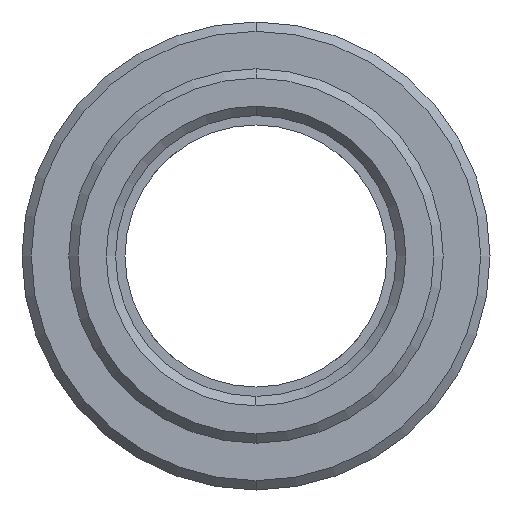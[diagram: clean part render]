
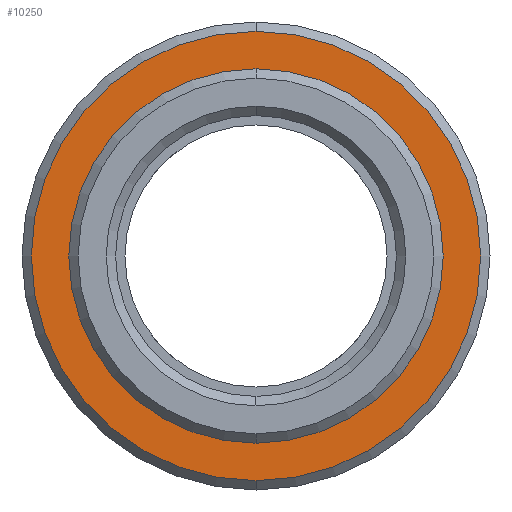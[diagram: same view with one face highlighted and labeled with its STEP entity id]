
A CAD part, left-side view. The second image highlights one B-rep face of the part: STEP entity #10250.
In plain terms, the highlighted planar face has unit normal (-1, 0, 0).
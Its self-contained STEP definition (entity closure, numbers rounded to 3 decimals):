
#3990=CARTESIAN_POINT('',(0.,0.,0.));
#3991=DIRECTION('',(1.,0.,0.));
#3992=DIRECTION('',(0.,0.,1.));
#3993=AXIS2_PLACEMENT_3D('',#3990,#3991,#3992);
#3995=CARTESIAN_POINT('',(0.,0.,0.));
#3996=DIRECTION('',(-1.,0.,0.));
#3997=DIRECTION('',(0.,0.,1.));
#3998=AXIS2_PLACEMENT_3D('',#3995,#3996,#3997);
#4000=CARTESIAN_POINT('',(0.,0.,0.));
#4001=DIRECTION('',(1.,0.,0.));
#4002=DIRECTION('',(0.,0.,-1.));
#4003=AXIS2_PLACEMENT_3D('',#4000,#4001,#4002);
#4005=CARTESIAN_POINT('',(0.,0.,
0.));
#4006=DIRECTION('',(1.,0.,0.));
#4007=DIRECTION('',(0.,0.,1.));
#4008=AXIS2_PLACEMENT_3D('',#4005,#4006,#4007);
#8166=CARTESIAN_POINT('',(0.,0.,-12.));
#8167=CARTESIAN_POINT('',(0.,0.,12.));
#8168=VERTEX_POINT('',#8166);
#8169=VERTEX_POINT('',#8167);
#8466=CARTESIAN_POINT('',(0.,0.,10.));
#8467=CARTESIAN_POINT('',(0.,0.,-10.));
#8468=VERTEX_POINT('',#8466);
#8469=VERTEX_POINT('',#8467);
#10235=CARTESIAN_POINT('',(0.,0.,0.));
#10236=DIRECTION('',(1.,0.,0.));
#10237=DIRECTION('',(0.,0.,1.));
#10238=AXIS2_PLACEMENT_3D('',#10235,#10236,#10237);
#10239=PLANE('',#10238);
#10241=ORIENTED_EDGE('',*,*,#10240,.T.);
#10243=ORIENTED_EDGE('',*,*,#10242,.T.);
#10244=EDGE_LOOP('',(#10241,#10243));
#10245=FACE_OUTER_BOUND('',#10244,.F.);
#10246=ORIENTED_EDGE('',*,*,#10202,.F.);
#10247=ORIENTED_EDGE('',*,*,#10217,.T.);
#10248=EDGE_LOOP('',(#10246,#10247));
#10249=FACE_BOUND('',#10248,.F.);
#10250=ADVANCED_FACE('',(#10245,#10249),#10239,.F.);
#3994=CIRCLE('',#3993,10.);
#3999=CIRCLE('',#3998,10.);
#4004=CIRCLE('',#4003,12.);
#4009=CIRCLE('',#4008,12.);
#10202=EDGE_CURVE('',#8468,#8469,#3994,.T.);
#10217=EDGE_CURVE('',#8468,#8469,#3999,.T.);
#10240=EDGE_CURVE('',#8168,#8169,#4004,.T.);
#10242=EDGE_CURVE('',#8169,#8168,#4009,.T.);
